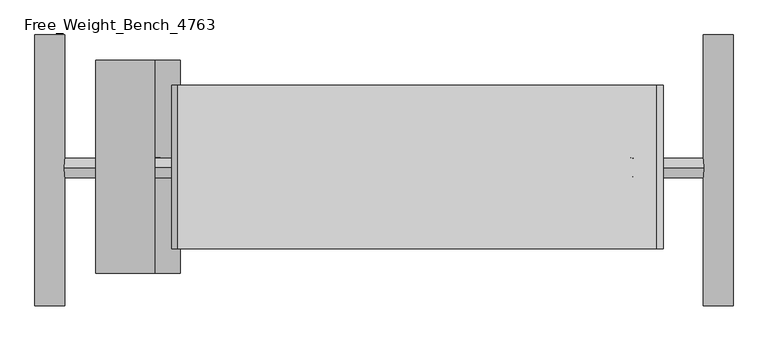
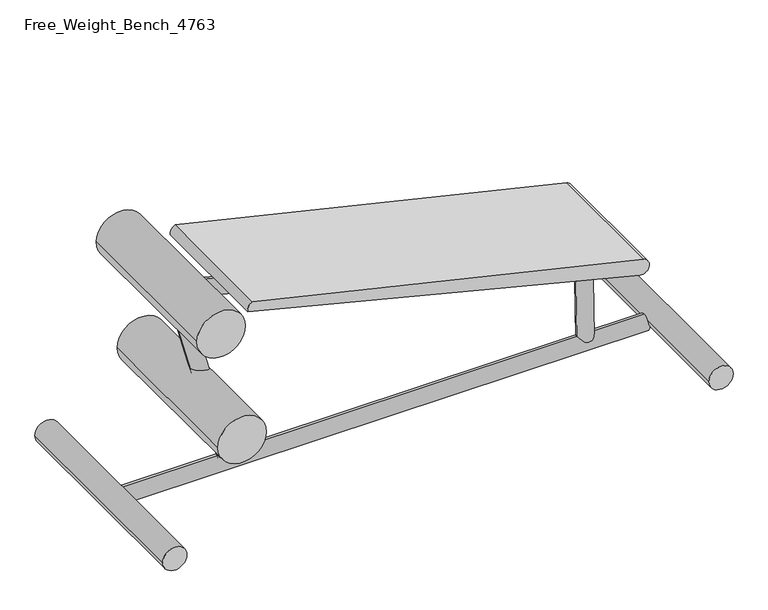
"""IFC4 building model written with IfcOpenShell, lengths in millimetres: proxy geometry, Free_Weight_Bench_4763 : Leg_Extension_2465[1]."""

from ifc_helpers import new_model, si_unit, point, frame, frame_2d, origin, place, context, project, spatial, polyline, circle_curve, trimmed, segment, composite_curve, outline, extrude, source, transform, mapped, element, save


def free_weight_bench_4763_d84bd0a1(model_context):
    return source(origin(), model_context, "Body", "SweptSolid", [
        extrude(outline(composite_curve([segment(trimmed(circle_curve(frame_2d((39.9587999, -29.6018185)), 38.1), [point((39.9587999, 8.4981815))], [point((39.9587999, -67.7018185))], False, "CARTESIAN"), True, "CONTINUOUS"), segment(trimmed(circle_curve(frame_2d((39.9587999, -29.6018185)), 38.1), [point((39.9587999, -67.7018185))], [point((39.9587999, 8.4981815))], False, "CARTESIAN"), True, "CONTINUOUS")], self_intersect=False)), frame((0.0, -1423.1586787, 0.0), z_axis=(0.0, 1.0, 0.0), x_axis=(0.0, 0.0, 1.0)), (0.0, 0.0, 1.0), 697.4694157),
        extrude(outline(composite_curve([segment(trimmed(circle_curve(frame_2d((294.7584065, 230.6836497)), 76.2), [point((294.7584065, 154.4836497))], [point((294.7584065, 306.8836497))], False, "CARTESIAN"), True, "CONTINUOUS"), segment(trimmed(circle_curve(frame_2d((294.7584065, 230.6836497)), 76.2), [point((294.7584065, 306.8836497))], [point((294.7584065, 154.4836497))], False, "CARTESIAN"), True, "CONTINUOUS")], self_intersect=False)), frame((0.0, -1339.8359763, 0.0), z_axis=(0.0, 1.0, 0.0), x_axis=(0.0, 0.0, 1.0)), (0.0, 0.0, 1.0), 549.0668753),
        extrude(outline(composite_curve([segment(trimmed(circle_curve(frame_2d((0.0, 25.4)), 25.4), [point((0.0, 50.8))], [point((0.0, 0.0))], False, "CARTESIAN"), True, "CONTINUOUS"), segment(trimmed(circle_curve(frame_2d((0.0, 25.4)), 25.4), [point((0.0, 0.0))], [point((0.0, 50.8))], False, "CARTESIAN"), True, "CONTINUOUS")], self_intersect=False)), frame((1493.8991834, -1066.9338344, 37.4165057), z_axis=(-0.014169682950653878, 0.0, 0.9998996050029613), x_axis=(0.0, 1.0, 0.0)), (0.0, 0.0, 1.0), 292.5389249),
        extrude(outline(composite_curve([segment(trimmed(circle_curve(frame_2d((0.0, 25.4)), 25.4), [point((0.0, 50.8))], [point((0.0, 0.0))], False, "CARTESIAN"), True, "CONTINUOUS"), segment(trimmed(circle_curve(frame_2d((0.0, 25.4)), 25.4), [point((0.0, 0.0))], [point((0.0, 50.8))], False, "CARTESIAN"), True, "CONTINUOUS")], self_intersect=False)), frame((1487.9807039, -1068.3206428, 295.8835549), z_axis=(-0.9702957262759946, 0.0, 0.24192189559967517), x_axis=(0.0, -1.0, 0.0)), (0.0, 0.0, 1.0), 1344.4083052),
        extrude(outline(composite_curve([segment(trimmed(circle_curve(frame_2d((0.0, 25.4)), 25.4), [point((0.0, 50.8))], [point((0.0, 0.0))], False, "CARTESIAN"), True, "CONTINUOUS"), segment(trimmed(circle_curve(frame_2d((0.0, 25.4)), 25.4), [point((0.0, 0.0))], [point((0.0, 50.8))], False, "CARTESIAN"), True, "CONTINUOUS")], self_intersect=False)), frame((366.400056, -1066.9338344, 35.2664529), z_axis=(-0.2588190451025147, 0.0, 0.9659258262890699), x_axis=(0.0, 1.0, 0.0)), (0.0, 0.0, 1.0), 667.1397878),
        extrude(outline(composite_curve([segment(trimmed(circle_curve(frame_2d((-1068.3206428, 23.8670022)), 25.4), [point((-1068.3206428, 49.2670022))], [point((-1068.3206428, -1.5329978))], False, "CARTESIAN"), True, "CONTINUOUS"), segment(trimmed(circle_curve(frame_2d((-1068.3206428, 23.8670022)), 25.4), [point((-1068.3206428, -1.5329978))], [point((-1068.3206428, 49.2670022))], False, "CARTESIAN"), True, "CONTINUOUS")], self_intersect=False)), frame((4.9901881, 0.0, 0.0), z_axis=(1.0, 0.0, 0.0), x_axis=(0.0, 1.0, 0.0)), (0.0, 0.0, 1.0), 1652.8416449),
        extrude(outline(composite_curve([segment(trimmed(circle_curve(frame_2d((39.9587999, 1691.9817555)), 38.1), [point((39.9587999, 1653.8817555))], [point((39.9587999, 1730.0817555))], False, "CARTESIAN"), True, "CONTINUOUS"), segment(trimmed(circle_curve(frame_2d((39.9587999, 1691.9817555)), 38.1), [point((39.9587999, 1730.0817555))], [point((39.9587999, 1653.8817555))], False, "CARTESIAN"), True, "CONTINUOUS")], self_intersect=False)), frame((0.0, -1423.1586787, 0.0), z_axis=(0.0, 1.0, 0.0), x_axis=(0.0, 0.0, 1.0)), (0.0, 0.0, 1.0), 697.4694157),
        extrude(outline(composite_curve([segment(trimmed(circle_curve(frame_2d((669.9701604, 164.5236941)), 76.2), [point((669.9701604, 88.3236941))], [point((669.9701604, 240.7236941))], False, "CARTESIAN"), True, "CONTINUOUS"), segment(trimmed(circle_curve(frame_2d((669.9701604, 164.5236941)), 76.2), [point((669.9701604, 240.7236941))], [point((669.9701604, 88.3236941))], False, "CARTESIAN"), True, "CONTINUOUS")], self_intersect=False)), frame((0.0, -1339.8359763, 0.0), z_axis=(0.0, 1.0, 0.0), x_axis=(0.0, 0.0, 1.0)), (0.0, 0.0, 1.0), 549.0668753),
        extrude(outline(composite_curve([segment(trimmed(circle_curve(frame_2d((376.785859, 1525.2949444)), 25.4318859), [point((351.7294533, 1520.9409401))], [point((400.9113351, 1533.3411996))], False, "CARTESIAN"), True, "CONTINUOUS"), segment(trimmed(circle_curve(frame_2d((-8060.617718, -1112.3300134)), 8865.4977347), [point((400.9113351, 1533.3411996))], [point((691.6927978, 299.7998386))], False, "CARTESIAN"), True, "CONTINUOUS"), segment(trimmed(circle_curve(frame_2d((668.243213, 310.3137788)), 25.6987542), [point((691.6927978, 299.7998386))], [point((663.3253516, 285.0899685))], False, "CARTESIAN"), True, "CONTINUOUS"), segment(polyline([(663.3253516, 285.0899685), (351.7294533, 1520.9409401)]), True, "CONTINUOUS")], self_intersect=False)), frame((0.0, -1276.2808199, 0.0), z_axis=(0.0, 1.0, 0.0), x_axis=(0.0, 0.0, 1.0)), (0.0, 0.0, 1.0), 421.5980746),
    ])


if __name__ == "__main__":
    model = new_model("IFC4")
    model_context = context("Model", 3, world=origin())
    ifc_project = project(units=[si_unit("LENGTHUNIT", "METRE", prefix="MILLI")], contexts=[model_context])
    site = spatial("IfcSite", under=ifc_project)
    building = spatial("IfcBuilding", under=site)
    placement = place(None, origin())
    free_weight_bench_4763_shape = free_weight_bench_4763_d84bd0a1(model_context)
    element("IfcBuildingElementProxy", 1, Name="Free_Weight_Bench_4763 : Leg_Extension_2465[1]", ObjectType="Free_Weight_Bench_4763 : Leg_Extension_2465[1]", at=placement, inside=building, context=model_context, shape_type="MappedRepresentation", body=[
        mapped(free_weight_bench_4763_shape, transform((0.0, 0.0, 0.0), x_axis=(1.0, 0.0, 0.0), y_axis=(0.0, 1.0, 0.0), z_axis=(0.0, 0.0, 1.0))),
    ])
    save(model, "model.ifc")
